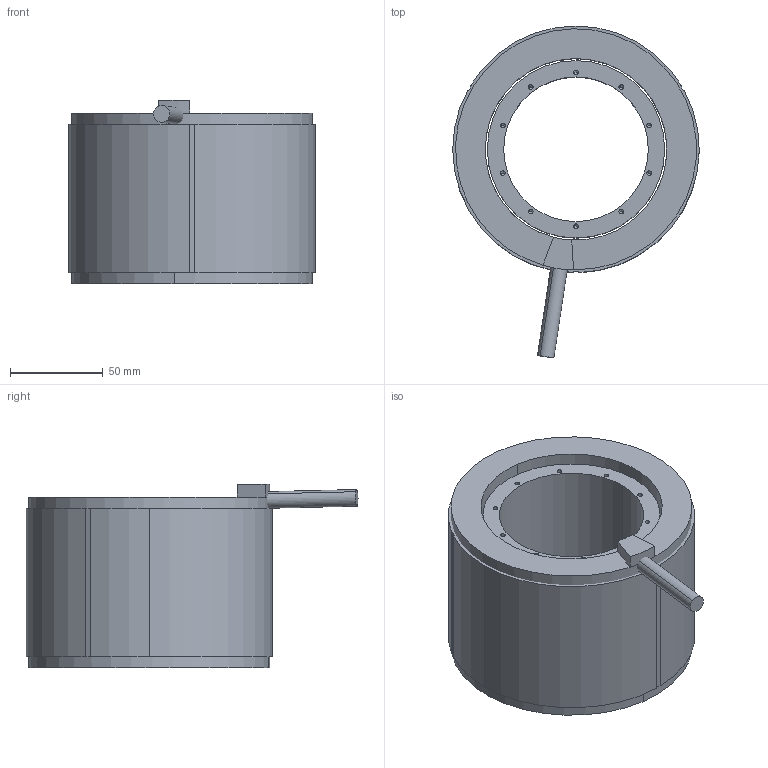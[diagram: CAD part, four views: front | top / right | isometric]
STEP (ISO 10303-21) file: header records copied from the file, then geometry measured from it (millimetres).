
FILE_DESCRIPTION (( 'STEP AP203' ), '1' );
FILE_NAME ('TMXSL133-92 KIT 3D.STEP', '2021-06-21T05:55:20', ( '' ), ( '' ), 'SwSTEP 2.0', 'SolidWorks 2021', '' );
FILE_SCHEMA (( 'CONFIG_CONTROL_DESIGN' ));
Length unit declared in the file: millimetre
Products named in the file (1): TMXSL133-92 KIT 3D
Bounding box: 133 x 179.09 x 99 mm (x, y, z)
Volume: 884117.9 mm3; surface area: 200819.1 mm2
Topology: 4 solids, 4 shells, 211 faces, 564 edges, 340 vertices
Faces by surface type: cylinder 99, plane 72, cone 40
Entity records: 6387 total; most frequent: DIRECTION 1150, CARTESIAN_POINT 1076, ORIENTED_EDGE 1048, EDGE_CURVE 524, AXIS2_PLACEMENT_3D 414, VERTEX_POINT 340, VECTOR 322, LINE 322
